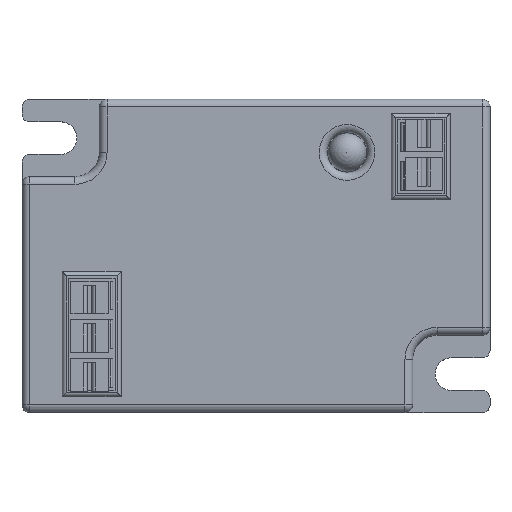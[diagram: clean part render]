
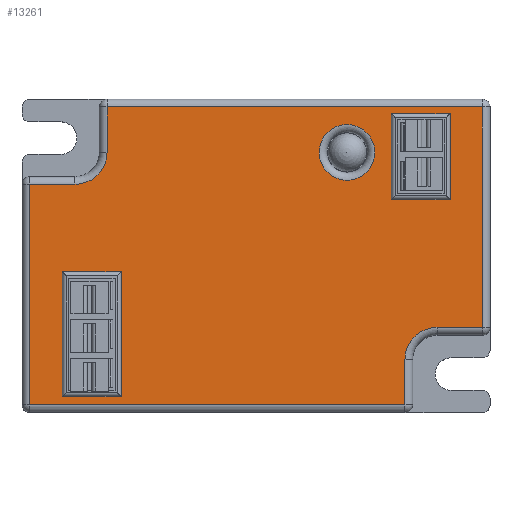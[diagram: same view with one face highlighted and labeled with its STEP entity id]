
A CAD part, top view. The second image highlights one B-rep face of the part: STEP entity #13261.
In plain terms, the highlighted planar face has unit normal (0, 0, 1).
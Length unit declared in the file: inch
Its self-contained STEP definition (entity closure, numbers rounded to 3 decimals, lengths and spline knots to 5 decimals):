
#105=FACE_BOUND('',#1591,.T.);
#106=FACE_BOUND('',#1592,.T.);
#107=FACE_BOUND('',#1593,.T.);
#862=FACE_OUTER_BOUND('',#1590,.T.);
#1590=EDGE_LOOP('',(#10840,#10841,#10842,#10843,#10844,#10845,#10846,#10847,
#10848,#10849));
#1591=EDGE_LOOP('',(#10850));
#1592=EDGE_LOOP('',(#10851,#10852,#10853,#10854));
#1593=EDGE_LOOP('',(#10855,#10856,#10857,#10858));
#2823=LINE('',#20555,#4305);
#2826=LINE('',#20562,#4308);
#2829=LINE('',#20567,#4311);
#2847=LINE('',#20605,#4329);
#2849=LINE('',#20611,#4331);
#2855=LINE('',#20626,#4337);
#2857=LINE('',#20631,#4339);
#2877=LINE('',#20678,#4359);
#2882=LINE('',#20697,#4364);
#2885=LINE('',#20706,#4367);
#2894=LINE('',#20753,#4376);
#2896=LINE('',#20762,#4378);
#2899=LINE('',#20769,#4381);
#2910=LINE('',#20792,#4392);
#2952=LINE('',#20912,#4434);
#2953=LINE('',#20914,#4435);
#4305=VECTOR('',#16775,39.37008);
#4308=VECTOR('',#16780,39.37008);
#4311=VECTOR('',#16785,39.37008);
#4329=VECTOR('',#16825,39.37008);
#4331=VECTOR('',#16829,39.37008);
#4337=VECTOR('',#16843,39.37008);
#4339=VECTOR('',#16847,39.37008);
#4359=VECTOR('',#16895,39.37008);
#4364=VECTOR('',#16918,39.37008);
#4367=VECTOR('',#16931,39.37008);
#4376=VECTOR('',#16988,39.37008);
#4378=VECTOR('',#17000,39.37008);
#4381=VECTOR('',#17011,39.37008);
#4392=VECTOR('',#17044,39.37008);
#4434=VECTOR('',#17184,39.37008);
#4435=VECTOR('',#17187,39.37008);
#4877=CIRCLE('',#14049,0.14173);
#4884=CIRCLE('',#14093,0.16339);
#4904=CIRCLE('',#14127,0.16339);
#5888=VERTEX_POINT('',#20539);
#5893=VERTEX_POINT('',#20552);
#5894=VERTEX_POINT('',#20554);
#5895=VERTEX_POINT('',#20558);
#5897=VERTEX_POINT('',#20561);
#5908=VERTEX_POINT('',#20607);
#5910=VERTEX_POINT('',#20610);
#5915=VERTEX_POINT('',#20624);
#5916=VERTEX_POINT('',#20628);
#5928=VERTEX_POINT('',#20670);
#5930=VERTEX_POINT('',#20676);
#5934=VERTEX_POINT('',#20690);
#5935=VERTEX_POINT('',#20695);
#5936=VERTEX_POINT('',#20704);
#5949=VERTEX_POINT('',#20749);
#5950=VERTEX_POINT('',#20751);
#5951=VERTEX_POINT('',#20755);
#5952=VERTEX_POINT('',#20759);
#5953=VERTEX_POINT('',#20787);
#7474=EDGE_CURVE('',#5888,#5888,#4877,.T.);
#7480=EDGE_CURVE('',#5894,#5893,#2823,.T.);
#7483=EDGE_CURVE('',#5897,#5895,#2826,.T.);
#7486=EDGE_CURVE('',#5895,#5894,#2829,.T.);
#7506=EDGE_CURVE('',#5893,#5897,#2847,.T.);
#7508=EDGE_CURVE('',#5910,#5908,#2849,.T.);
#7516=EDGE_CURVE('',#5908,#5915,#2855,.T.);
#7518=EDGE_CURVE('',#5915,#5916,#2857,.T.);
#7542=EDGE_CURVE('',#5928,#5930,#2877,.T.);
#7549=EDGE_CURVE('',#5930,#5934,#4884,.T.);
#7552=EDGE_CURVE('',#5934,#5935,#2882,.T.);
#7557=EDGE_CURVE('',#5935,#5936,#2885,.T.);
#7581=EDGE_CURVE('',#5949,#5950,#2894,.T.);
#7583=EDGE_CURVE('',#5951,#5949,#4904,.T.);
#7586=EDGE_CURVE('',#5952,#5951,#2896,.T.);
#7590=EDGE_CURVE('',#5936,#5952,#2899,.T.);
#7604=EDGE_CURVE('',#5950,#5953,#2910,.T.);
#7664=EDGE_CURVE('',#5916,#5910,#2952,.T.);
#7665=EDGE_CURVE('',#5953,#5928,#2953,.T.);
#10840=ORIENTED_EDGE('',*,*,#7549,.T.);
#10841=ORIENTED_EDGE('',*,*,#7552,.T.);
#10842=ORIENTED_EDGE('',*,*,#7557,.T.);
#10843=ORIENTED_EDGE('',*,*,#7590,.T.);
#10844=ORIENTED_EDGE('',*,*,#7586,.T.);
#10845=ORIENTED_EDGE('',*,*,#7583,.T.);
#10846=ORIENTED_EDGE('',*,*,#7581,.T.);
#10847=ORIENTED_EDGE('',*,*,#7604,.T.);
#10848=ORIENTED_EDGE('',*,*,#7665,.T.);
#10849=ORIENTED_EDGE('',*,*,#7542,.T.);
#10850=ORIENTED_EDGE('',*,*,#7474,.T.);
#10851=ORIENTED_EDGE('',*,*,#7508,.T.);
#10852=ORIENTED_EDGE('',*,*,#7516,.T.);
#10853=ORIENTED_EDGE('',*,*,#7518,.T.);
#10854=ORIENTED_EDGE('',*,*,#7664,.T.);
#10855=ORIENTED_EDGE('',*,*,#7483,.T.);
#10856=ORIENTED_EDGE('',*,*,#7486,.T.);
#10857=ORIENTED_EDGE('',*,*,#7480,.T.);
#10858=ORIENTED_EDGE('',*,*,#7506,.T.);
#11969=PLANE('',#14194);
#13261=ADVANCED_FACE('',(#862,#105,#106,#107),#11969,.T.);
#14049=AXIS2_PLACEMENT_3D('',#20541,#16762,#16763);
#14093=AXIS2_PLACEMENT_3D('',#20692,#16911,#16912);
#14127=AXIS2_PLACEMENT_3D('',#20757,#16993,#16994);
#14194=AXIS2_PLACEMENT_3D('',#20913,#17185,#17186);
#16762=DIRECTION('center_axis',(0.,0.,-1.));
#16763=DIRECTION('ref_axis',(-1.,0.,0.));
#16775=DIRECTION('',(0.,-1.,0.));
#16780=DIRECTION('',(0.,1.,0.));
#16785=DIRECTION('',(1.,0.,0.));
#16825=DIRECTION('',(-1.,0.,0.));
#16829=DIRECTION('',(-1.,0.,0.));
#16843=DIRECTION('',(0.,1.,0.));
#16847=DIRECTION('',(1.,0.,0.));
#16895=DIRECTION('',(0.,1.,0.));
#16911=DIRECTION('center_axis',(0.,0.,-1.));
#16912=DIRECTION('ref_axis',(-1.,0.,0.));
#16918=DIRECTION('',(1.,0.,0.));
#16931=DIRECTION('',(0.,1.,0.));
#16988=DIRECTION('',(-1.,0.,0.));
#16993=DIRECTION('center_axis',(0.,0.,-1.));
#16994=DIRECTION('ref_axis',(1.,0.,0.));
#17000=DIRECTION('',(0.,-1.,0.));
#17011=DIRECTION('',(-1.,0.,0.));
#17044=DIRECTION('',(0.,-1.,0.));
#17184=DIRECTION('',(0.,-1.,0.));
#17185=DIRECTION('center_axis',(0.,0.,1.));
#17186=DIRECTION('ref_axis',(1.,0.,0.));
#17187=DIRECTION('',(1.,0.,0.));
#20539=CARTESIAN_POINT('',(-0.98956,12.86494,-1.70909));
#20541=CARTESIAN_POINT('Origin',(-0.84811,12.87388,-1.70909));
#20552=CARTESIAN_POINT('',(-0.32284,12.63395,-1.70909));
#20554=CARTESIAN_POINT('',(-0.32284,13.07096,-1.70909));
#20555=CARTESIAN_POINT('',(-0.32284,13.07096,-1.70909));
#20558=CARTESIAN_POINT('',(-0.62205,13.07096,-1.70909));
#20561=CARTESIAN_POINT('',(-0.62205,12.63395,-1.70909));
#20562=CARTESIAN_POINT('',(-0.62205,12.63395,-1.70909));
#20567=CARTESIAN_POINT('',(-0.62205,13.07096,-1.70909));
#20605=CARTESIAN_POINT('',(-0.32284,12.63395,-1.70909));
#20607=CARTESIAN_POINT('',(-2.29641,11.63143,-1.70909));
#20610=CARTESIAN_POINT('',(-1.9972,11.63143,-1.70909));
#20611=CARTESIAN_POINT('',(-1.9972,11.63143,-1.70909));
#20624=CARTESIAN_POINT('',(-2.29641,12.26529,-1.70909));
#20626=CARTESIAN_POINT('',(-2.29641,11.63143,-1.70909));
#20628=CARTESIAN_POINT('',(-1.9972,12.26529,-1.70909));
#20631=CARTESIAN_POINT('',(-2.29641,12.26529,-1.70909));
#20670=CARTESIAN_POINT('',(-0.55331,11.5894,-1.70909));
#20676=CARTESIAN_POINT('',(-0.55331,11.8197,-1.70909));
#20678=CARTESIAN_POINT('',(-0.55331,11.5894,-1.70909));
#20690=CARTESIAN_POINT('',(-0.38992,11.98309,-1.70909));
#20692=CARTESIAN_POINT('Origin',(-0.38992,11.8197,-1.70909));
#20695=CARTESIAN_POINT('',(-0.15963,11.98309,-1.70909));
#20697=CARTESIAN_POINT('',(-0.38992,11.98309,-1.70909));
#20704=CARTESIAN_POINT('',(-0.15963,13.10515,-1.70909));
#20706=CARTESIAN_POINT('',(-0.15963,11.98309,-1.70909));
#20749=CARTESIAN_POINT('',(-2.2325,12.7115,-1.70909));
#20751=CARTESIAN_POINT('',(-2.46278,12.7115,-1.70909));
#20753=CARTESIAN_POINT('',(-2.2325,12.7115,-1.70909));
#20755=CARTESIAN_POINT('',(-2.06911,12.87488,-1.70909));
#20757=CARTESIAN_POINT('Origin',(-2.2325,12.87488,-1.70909));
#20759=CARTESIAN_POINT('',(-2.06911,13.10515,-1.70909));
#20762=CARTESIAN_POINT('',(-2.06911,13.10515,-1.70909));
#20769=CARTESIAN_POINT('',(-0.15963,13.10515,-1.70909));
#20787=CARTESIAN_POINT('',(-2.46278,11.5894,-1.70909));
#20792=CARTESIAN_POINT('',(-2.46278,12.7115,-1.70909));
#20912=CARTESIAN_POINT('',(-1.9972,12.26529,-1.70909));
#20913=CARTESIAN_POINT('Origin',(-2.16305,11.94443,-1.70909));
#20914=CARTESIAN_POINT('',(-2.46278,11.5894,-1.70909));
